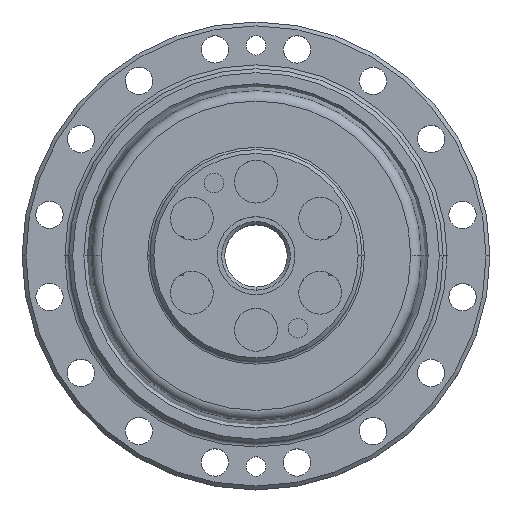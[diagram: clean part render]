
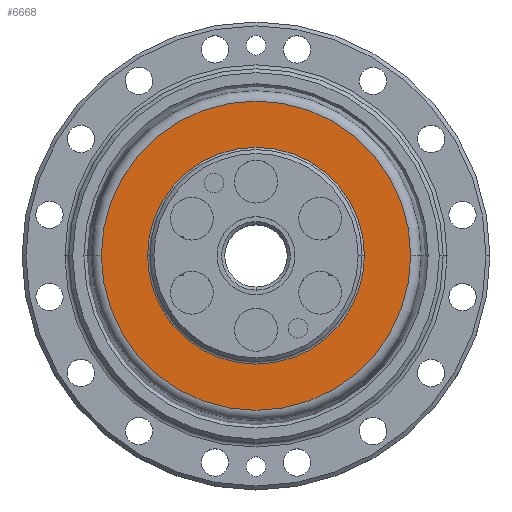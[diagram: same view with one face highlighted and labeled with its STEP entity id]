
A CAD part, top view. The second image highlights one B-rep face of the part: STEP entity #6668.
In plain terms, the highlighted planar face has unit normal (0, 0, 1).
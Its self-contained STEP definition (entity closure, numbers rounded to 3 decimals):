
#8 = AXIS2_PLACEMENT_3D ( 'NONE', #6694, #6316, #245 ) ;
#211 = EDGE_CURVE ( 'NONE', #8589, #6661, #4121, .T. ) ;
#219 = ORIENTED_EDGE ( 'NONE', *, *, #6954, .F. ) ;
#245 = DIRECTION ( 'NONE',  ( 1., 0., 0. ) ) ;
#506 = CARTESIAN_POINT ( 'NONE',  ( -19.833, 0., 14.792 ) ) ;
#894 = DIRECTION ( 'NONE',  ( 0., 0., -1. ) ) ;
#1970 = CARTESIAN_POINT ( 'NONE',  ( 0., 0., 14.792 ) ) ;
#2355 = DIRECTION ( 'NONE',  ( 0., 0., 1. ) ) ;
#2887 = AXIS2_PLACEMENT_3D ( 'NONE', #1970, #13169, #11097 ) ;
#3087 = EDGE_LOOP ( 'NONE', ( #4465, #7956 ) ) ;
#3903 = CARTESIAN_POINT ( 'NONE',  ( 0., 19.833, 14.792 ) ) ;
#4121 = CIRCLE ( 'NONE', #9706, 19.833 ) ;
#4465 = ORIENTED_EDGE ( 'NONE', *, *, #5147, .T. ) ;
#4972 = AXIS2_PLACEMENT_3D ( 'NONE', #11632, #5467, #12668 ) ;
#5147 = EDGE_CURVE ( 'NONE', #6661, #8589, #9058, .T. ) ;
#5467 = DIRECTION ( 'NONE',  ( 0., 0., 1. ) ) ;
#6316 = DIRECTION ( 'NONE',  ( 0., 0., 1. ) ) ;
#6661 = VERTEX_POINT ( 'NONE', #13083 ) ;
#6668 = ADVANCED_FACE ( 'NONE', ( #8554, #9227 ), #11055, .F. ) ;
#6694 = CARTESIAN_POINT ( 'NONE',  ( 0., 0., 14.792 ) ) ;
#6954 = EDGE_CURVE ( 'NONE', #12657, #9888, #10162, .T. ) ;
#7241 = CIRCLE ( 'NONE', #4972, 13.9 ) ;
#7956 = ORIENTED_EDGE ( 'NONE', *, *, #211, .T. ) ;
#7996 = DIRECTION ( 'NONE',  ( -1., 0., 0. ) ) ;
#8274 = ORIENTED_EDGE ( 'NONE', *, *, #10427, .F. ) ;
#8461 = CARTESIAN_POINT ( 'NONE',  ( 0., 0., 14.792 ) ) ;
#8554 = FACE_BOUND ( 'NONE', #9490, .T. ) ;
#8589 = VERTEX_POINT ( 'NONE', #506 ) ;
#8612 = AXIS2_PLACEMENT_3D ( 'NONE', #3903, #894, #7996 ) ;
#8939 = CARTESIAN_POINT ( 'NONE',  ( 13.9, 0., 14.792 ) ) ;
#9058 = CIRCLE ( 'NONE', #2887, 19.833 ) ;
#9227 = FACE_OUTER_BOUND ( 'NONE', #3087, .T. ) ;
#9490 = EDGE_LOOP ( 'NONE', ( #219, #8274 ) ) ;
#9511 = DIRECTION ( 'NONE',  ( 1., 0., 0. ) ) ;
#9706 = AXIS2_PLACEMENT_3D ( 'NONE', #8461, #2355, #9511 ) ;
#9888 = VERTEX_POINT ( 'NONE', #12421 ) ;
#10162 = CIRCLE ( 'NONE', #8, 13.9 ) ;
#10427 = EDGE_CURVE ( 'NONE', #9888, #12657, #7241, .T. ) ;
#11055 = PLANE ( 'NONE',  #8612 ) ;
#11097 = DIRECTION ( 'NONE',  ( 1., 0., 0. ) ) ;
#11632 = CARTESIAN_POINT ( 'NONE',  ( 0., 0., 14.792 ) ) ;
#12421 = CARTESIAN_POINT ( 'NONE',  ( -13.9, 0., 14.792 ) ) ;
#12657 = VERTEX_POINT ( 'NONE', #8939 ) ;
#12668 = DIRECTION ( 'NONE',  ( 1., 0., 0. ) ) ;
#13083 = CARTESIAN_POINT ( 'NONE',  ( 19.833, 0., 14.792 ) ) ;
#13169 = DIRECTION ( 'NONE',  ( 0., 0., 1. ) ) ;
